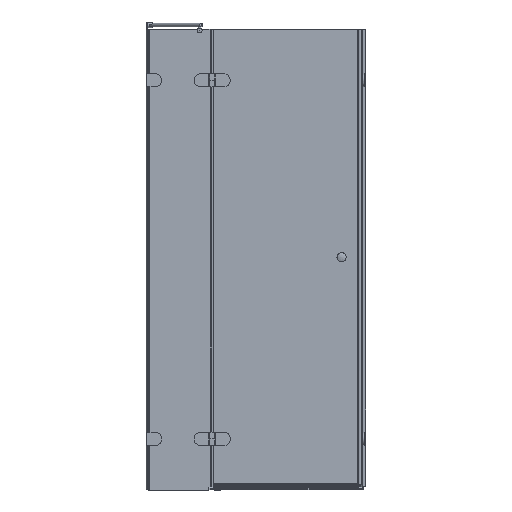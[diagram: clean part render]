
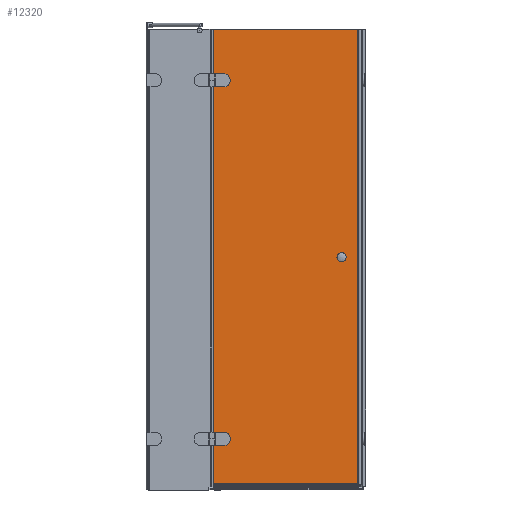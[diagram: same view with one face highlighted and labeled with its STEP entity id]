
A CAD part, front view. The second image highlights one B-rep face of the part: STEP entity #12320.
In plain terms, the highlighted planar face has unit normal (0, -1, 0).
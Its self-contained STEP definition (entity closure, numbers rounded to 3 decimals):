
#217=LINE($,#17588,#1430);
#220=LINE($,#17594,#1433);
#224=LINE($,#17604,#1437);
#361=LINE($,#17956,#1574);
#364=LINE($,#17962,#1577);
#368=LINE($,#17972,#1581);
#559=LINE($,#18728,#1772);
#573=LINE($,#18768,#1786);
#1195=LINE($,#20802,#2408);
#1196=LINE($,#20803,#2409);
#1430=VECTOR($,#13909,52.);
#1433=VECTOR($,#13914,23.);
#1437=VECTOR($,#13926,23.);
#1574=VECTOR($,#14271,52.);
#1577=VECTOR($,#14276,23.);
#1581=VECTOR($,#14288,23.);
#1772=VECTOR($,#14859,1875.4);
#1786=VECTOR($,#14899,595.4);
#2408=VECTOR($,#16465,1875.4);
#2409=VECTOR($,#16466,595.4);
#2633=FACE_BOUND($,#4080,.T.);
#2634=FACE_BOUND($,#4081,.T.);
#2635=FACE_BOUND($,#4082,.T.);
#4080=EDGE_LOOP($,(#10429,#10430,#10431,#10432));
#4081=EDGE_LOOP($,(#10433,#10434,#10435,#10436));
#4082=EDGE_LOOP($,(#10437,#10438,#10439,#10440));
#4219=CIRCLE($,#12547,26.);
#4253=CIRCLE($,#12656,26.);
#4734=VERTEX_POINT($,#17585);
#4735=VERTEX_POINT($,#17587);
#4737=VERTEX_POINT($,#17593);
#4739=VERTEX_POINT($,#17599);
#4849=VERTEX_POINT($,#17953);
#4850=VERTEX_POINT($,#17955);
#4852=VERTEX_POINT($,#17961);
#4854=VERTEX_POINT($,#17967);
#5063=VERTEX_POINT($,#18725);
#5064=VERTEX_POINT($,#18727);
#5077=VERTEX_POINT($,#18766);
#5603=VERTEX_POINT($,#20801);
#5916=EDGE_CURVE($,#4735,#4734,#217,.T.);
#5919=EDGE_CURVE($,#4737,#4735,#220,.T.);
#5922=EDGE_CURVE($,#4739,#4737,#4219,.T.);
#5925=EDGE_CURVE($,#4734,#4739,#224,.T.);
#6094=EDGE_CURVE($,#4850,#4849,#361,.T.);
#6097=EDGE_CURVE($,#4852,#4850,#364,.T.);
#6100=EDGE_CURVE($,#4854,#4852,#4253,.T.);
#6103=EDGE_CURVE($,#4849,#4854,#368,.T.);
#6394=EDGE_CURVE($,#5063,#5064,#559,.T.);
#6414=EDGE_CURVE($,#5063,#5077,#573,.T.);
#7239=EDGE_CURVE($,#5077,#5603,#1195,.T.);
#7240=EDGE_CURVE($,#5064,#5603,#1196,.T.);
#10429=ORIENTED_EDGE($,*,*,#5916,.T.);
#10430=ORIENTED_EDGE($,*,*,#5925,.T.);
#10431=ORIENTED_EDGE($,*,*,#5922,.T.);
#10432=ORIENTED_EDGE($,*,*,#5919,.T.);
#10433=ORIENTED_EDGE($,*,*,#6094,.T.);
#10434=ORIENTED_EDGE($,*,*,#6103,.T.);
#10435=ORIENTED_EDGE($,*,*,#6100,.T.);
#10436=ORIENTED_EDGE($,*,*,#6097,.T.);
#10437=ORIENTED_EDGE($,*,*,#6414,.T.);
#10438=ORIENTED_EDGE($,*,*,#7239,.T.);
#10439=ORIENTED_EDGE($,*,*,#7240,.F.);
#10440=ORIENTED_EDGE($,*,*,#6394,.F.);
#11083=PLANE($,#13332);
#12320=ADVANCED_FACE($,(#2633,#2634,#2635),#11083,.T.);
#12547=AXIS2_PLACEMENT_3D($,#17600,#13920,#13921);
#12656=AXIS2_PLACEMENT_3D($,#17968,#14282,#14283);
#13332=AXIS2_PLACEMENT_3D($,#20800,#16463,#16464);
#13909=DIRECTION($,(0.,0.,1.));
#13914=DIRECTION($,(-1.,0.,0.));
#13920=DIRECTION('center_axis',(0.,1.,0.));
#13921=DIRECTION('ref_axis',(0.,0.,
1.));
#13926=DIRECTION($,(1.,0.,0.));
#14271=DIRECTION($,(0.,0.,1.));
#14276=DIRECTION($,(-1.,0.,0.));
#14282=DIRECTION('center_axis',(0.,1.,0.));
#14283=DIRECTION('ref_axis',(0.,0.,
1.));
#14288=DIRECTION($,(1.,0.,0.));
#14859=DIRECTION($,(0.,0.,1.));
#14899=DIRECTION($,(1.,0.,0.));
#16463=DIRECTION('center_axis',(0.,-1.,0.));
#16464=DIRECTION('ref_axis',(1.,0.,0.));
#16465=DIRECTION($,(0.,0.,1.));
#16466=DIRECTION($,(1.,0.,0.));
#17585=CARTESIAN_POINT('',(662.019,-34.044,1201.944));
#17587=CARTESIAN_POINT('',(662.019,-34.044,1149.944));
#17588=CARTESIAN_POINT($,(662.019,-34.044,327.944));
#17593=CARTESIAN_POINT('',(685.019,-34.044,1149.944));
#17594=CARTESIAN_POINT($,(663.019,-34.044,1149.944));
#17599=CARTESIAN_POINT('',(685.019,-34.044,1201.944));
#17600=CARTESIAN_POINT('Origin',(685.019,-34.044,1175.944));
#17604=CARTESIAN_POINT($,(651.519,-34.044,1201.944));
#17953=CARTESIAN_POINT('',(662.019,-34.044,-278.056));
#17955=CARTESIAN_POINT('',(662.019,-34.044,-330.056));
#17956=CARTESIAN_POINT($,(662.019,-34.044,-412.056));
#17961=CARTESIAN_POINT('',(685.019,-34.044,-330.056));
#17962=CARTESIAN_POINT($,(663.019,-34.044,-330.056));
#17967=CARTESIAN_POINT('',(685.019,-34.044,-278.056));
#17968=CARTESIAN_POINT('Origin',(685.019,-34.044,-304.056));
#17972=CARTESIAN_POINT($,(651.519,-34.044,-278.056));
#18725=CARTESIAN_POINT('',(641.019,-34.044,-489.456));
#18727=CARTESIAN_POINT('',(641.019,-34.044,1385.944));
#18728=CARTESIAN_POINT($,(641.019,-34.044,-494.056));
#18766=CARTESIAN_POINT('',(1236.419,-34.044,-489.456));
#18768=CARTESIAN_POINT($,(641.019,-34.044,-489.456));
#20800=CARTESIAN_POINT('Origin',(641.019,-34.044,-494.056));
#20801=CARTESIAN_POINT('',(1236.419,-34.044,1385.944));
#20802=CARTESIAN_POINT($,(1236.419,-34.044,-494.056));
#20803=CARTESIAN_POINT($,(641.019,-34.044,1385.944));
